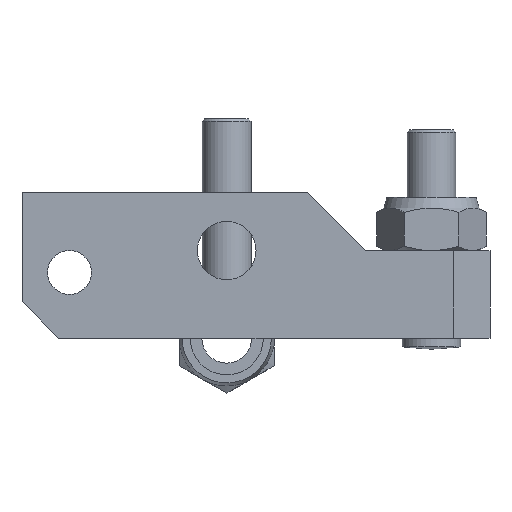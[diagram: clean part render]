
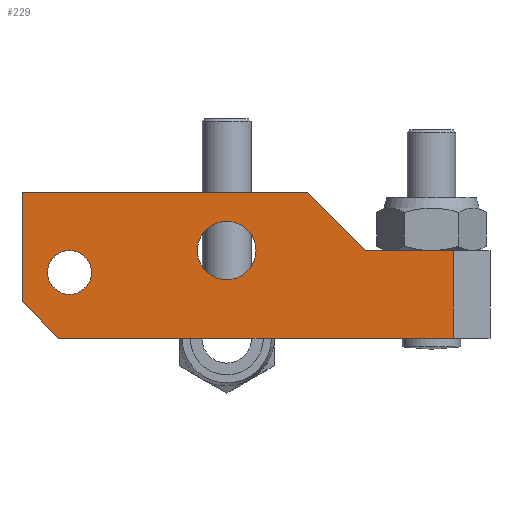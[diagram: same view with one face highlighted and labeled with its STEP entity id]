
A CAD part, front view. The second image highlights one B-rep face of the part: STEP entity #229.
In plain terms, the highlighted planar face has unit normal (0, -1, 0).
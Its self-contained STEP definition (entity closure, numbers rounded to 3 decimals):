
#229 = ADVANCED_FACE( '', ( #310, #311, #312 ), #313, .T. );
#310 = FACE_BOUND( '', #481, .T. );
#311 = FACE_BOUND( '', #482, .T. );
#312 = FACE_OUTER_BOUND( '', #483, .T. );
#313 = PLANE( '', #484 );
#481 = EDGE_LOOP( '', ( #693 ) );
#482 = EDGE_LOOP( '', ( #694 ) );
#483 = EDGE_LOOP( '', ( #695, #696, #697, #698, #699, #700, #701 ) );
#484 = AXIS2_PLACEMENT_3D( '', #702, #703, #704 );
#693 = ORIENTED_EDGE( '', *, *, #1190, .F. );
#694 = ORIENTED_EDGE( '', *, *, #1191, .F. );
#695 = ORIENTED_EDGE( '', *, *, #1185, .T. );
#696 = ORIENTED_EDGE( '', *, *, #1192, .T. );
#697 = ORIENTED_EDGE( '', *, *, #1193, .T. );
#698 = ORIENTED_EDGE( '', *, *, #1194, .T. );
#699 = ORIENTED_EDGE( '', *, *, #1179, .T. );
#700 = ORIENTED_EDGE( '', *, *, #1195, .T. );
#701 = ORIENTED_EDGE( '', *, *, #1196, .T. );
#702 = CARTESIAN_POINT( '', ( -23., -8., 0. ) );
#703 = DIRECTION( '', ( 0., -1., 0. ) );
#704 = DIRECTION( '', ( 0., 0., -1. ) );
#1179 = EDGE_CURVE( '', #1349, #1347, #1350, .T. );
#1185 = EDGE_CURVE( '', #1360, #1358, #1361, .T. );
#1190 = EDGE_CURVE( '', #1368, #1368, #1369, .T. );
#1191 = EDGE_CURVE( '', #1370, #1370, #1371, .T. );
#1192 = EDGE_CURVE( '', #1358, #1372, #1373, .T. );
#1193 = EDGE_CURVE( '', #1372, #1374, #1375, .T. );
#1194 = EDGE_CURVE( '', #1374, #1349, #1376, .T. );
#1195 = EDGE_CURVE( '', #1347, #1377, #1378, .T. );
#1196 = EDGE_CURVE( '', #1377, #1360, #1379, .T. );
#1347 = VERTEX_POINT( '', #1619 );
#1349 = VERTEX_POINT( '', #1622 );
#1350 = LINE( '', #1623, #1624 );
#1358 = VERTEX_POINT( '', #1635 );
#1360 = VERTEX_POINT( '', #1638 );
#1361 = LINE( '', #1639, #1640 );
#1368 = VERTEX_POINT( '', #1651 );
#1369 = CIRCLE( '', #1652, 3. );
#1370 = VERTEX_POINT( '', #1653 );
#1371 = CIRCLE( '', #1654, 4. );
#1372 = VERTEX_POINT( '', #1655 );
#1373 = LINE( '', #1656, #1657 );
#1374 = VERTEX_POINT( '', #1658 );
#1375 = LINE( '', #1659, #1660 );
#1376 = LINE( '', #1661, #1662 );
#1377 = VERTEX_POINT( '', #1663 );
#1378 = LINE( '', #1664, #1665 );
#1379 = LINE( '', #1666, #1667 );
#1619 = CARTESIAN_POINT( '', ( -28., -8., 20. ) );
#1622 = CARTESIAN_POINT( '', ( 11., -8., 20. ) );
#1623 = CARTESIAN_POINT( '', ( 11., -8., 20. ) );
#1624 = VECTOR( '', #2061, 1000. );
#1635 = CARTESIAN_POINT( '', ( 31., -8., 0. ) );
#1638 = CARTESIAN_POINT( '', ( -23., -8., 0. ) );
#1639 = CARTESIAN_POINT( '', ( -23., -8., 0. ) );
#1640 = VECTOR( '', #2069, 1000. );
#1651 = CARTESIAN_POINT( '', ( -18.5, -8., 9. ) );
#1652 = AXIS2_PLACEMENT_3D( '', #2074, #2075, #2076 );
#1653 = CARTESIAN_POINT( '', ( 4., -8., 12. ) );
#1654 = AXIS2_PLACEMENT_3D( '', #2077, #2078, #2079 );
#1655 = CARTESIAN_POINT( '', ( 31., -8., 12. ) );
#1656 = CARTESIAN_POINT( '', ( 31., -8., 12. ) );
#1657 = VECTOR( '', #2080, 1000. );
#1658 = CARTESIAN_POINT( '', ( 19., -8., 12. ) );
#1659 = CARTESIAN_POINT( '', ( 36., -8., 12. ) );
#1660 = VECTOR( '', #2081, 1000. );
#1661 = CARTESIAN_POINT( '', ( 19., -8., 12. ) );
#1662 = VECTOR( '', #2082, 1000. );
#1663 = CARTESIAN_POINT( '', ( -28., -8., 5. ) );
#1664 = CARTESIAN_POINT( '', ( -28., -8., 20. ) );
#1665 = VECTOR( '', #2083, 1000. );
#1666 = CARTESIAN_POINT( '', ( -28., -8., 5. ) );
#1667 = VECTOR( '', #2084, 1000. );
#2061 = DIRECTION( '', ( -1., 0., 0. ) );
#2069 = DIRECTION( '', ( 1., 0., 0. ) );
#2074 = CARTESIAN_POINT( '', ( -21.5, -8., 9. ) );
#2075 = DIRECTION( '', ( 0., -1., 0. ) );
#2076 = DIRECTION( '', ( 1., 0., 0. ) );
#2077 = CARTESIAN_POINT( '', ( 0., -8., 12. ) );
#2078 = DIRECTION( '', ( 0., -1., 0. ) );
#2079 = DIRECTION( '', ( 1., 0., 0. ) );
#2080 = DIRECTION( '', ( 0., 0., 1. ) );
#2081 = DIRECTION( '', ( -1., 0., 0. ) );
#2082 = DIRECTION( '', ( -0.707, 0., 0.707 ) );
#2083 = DIRECTION( '', ( 0., 0., -1. ) );
#2084 = DIRECTION( '', ( 0.707, 0., -0.707 ) );
